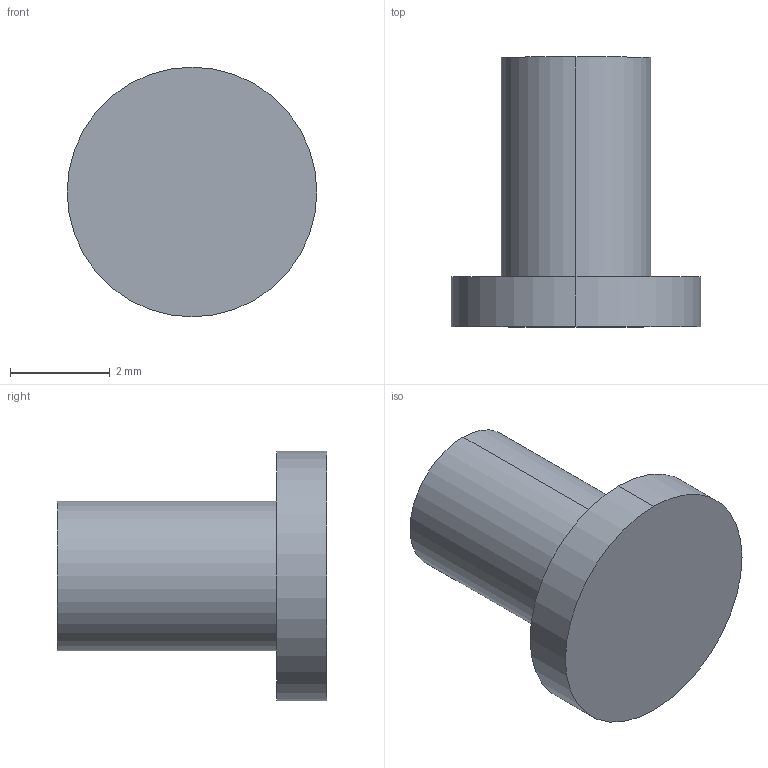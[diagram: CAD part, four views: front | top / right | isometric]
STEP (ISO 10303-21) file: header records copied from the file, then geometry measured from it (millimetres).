
FILE_DESCRIPTION (( 'STEP AP214' ), '1' );
FILE_NAME ('Butó groc PP75.STEP', '2017-10-05T07:29:13', ( 'aaa' ), ( '' ), 'SwSTEP 2.0', 'SolidWorks 2013', '' );
FILE_SCHEMA (( 'AUTOMOTIVE_DESIGN' ));
Length unit declared in the file: millimetre
Products named in the file (1): Butó groc PP75
Bounding box: 5 x 5.4 x 5 mm (x, y, z)
Volume: 50.7 mm3; surface area: 96.4 mm2
Topology: 1 solids, 1 shells, 7 faces, 12 edges, 8 vertices
Faces by surface type: cylinder 4, plane 3
Entity records: 208 total; most frequent: DIRECTION 36, CARTESIAN_POINT 28, ORIENTED_EDGE 24, AXIS2_PLACEMENT_3D 16, EDGE_CURVE 12, CIRCLE 8, VERTEX_POINT 8, EDGE_LOOP 8
